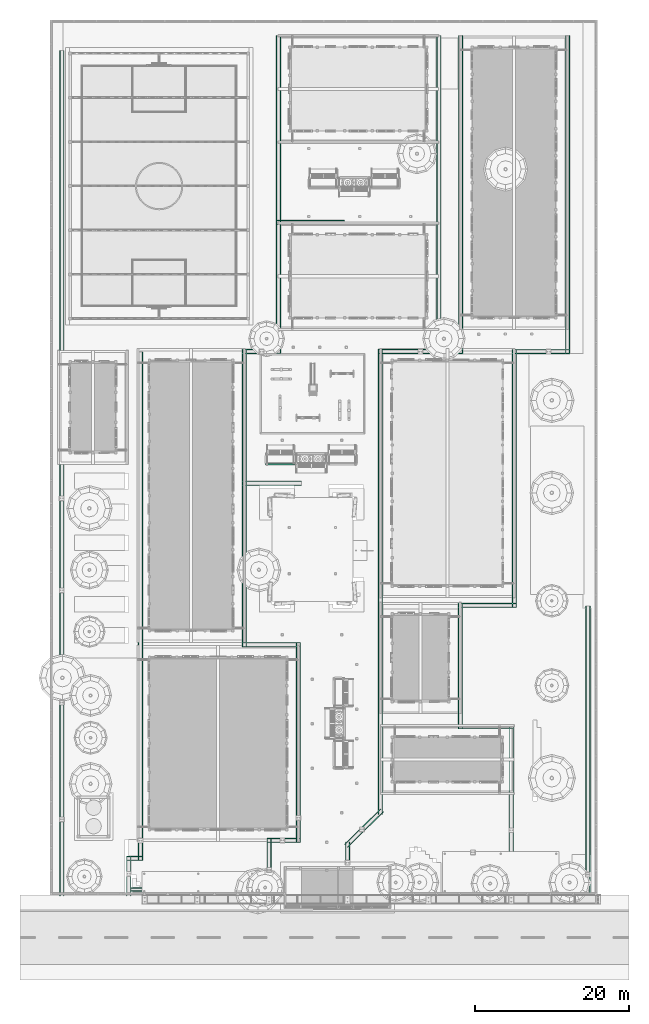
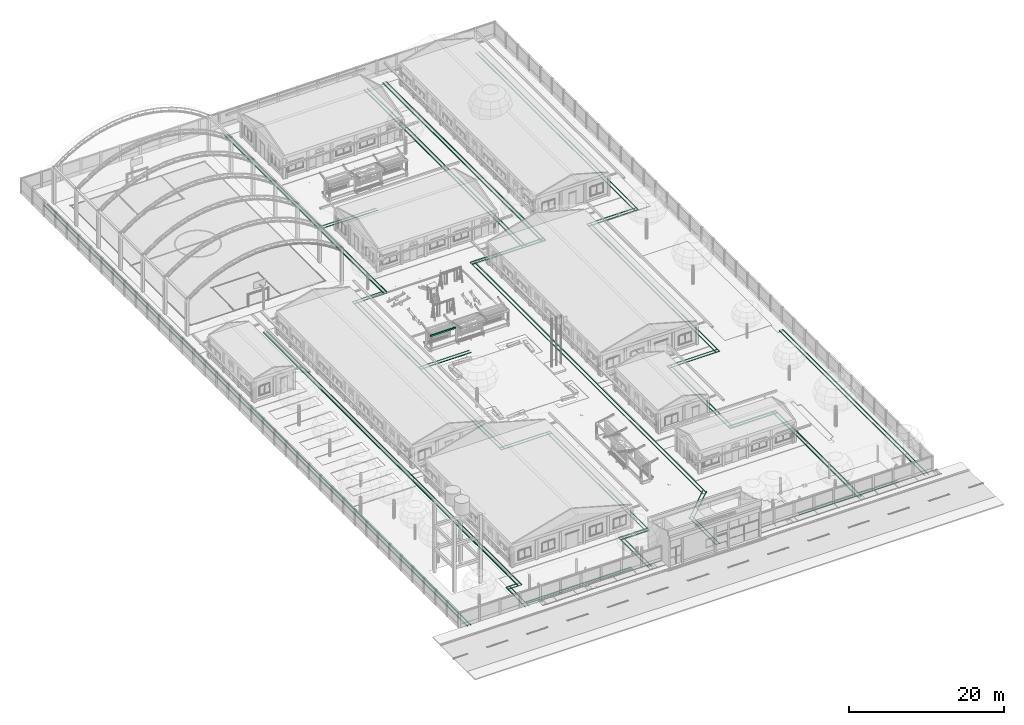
# One storey, part 105 of 177: 2 pipe segments.
"""IFC4 building model written with IfcOpenShell, lengths in metres."""

import ifcopenshell
import ifcopenshell.guid

model = None  # the IFC model being written
_history = None  # IfcOwnerHistory: only IFC2X3 demands one
_inside = {}  # id of a spatial element -> (the spatial element, [elements in it])
_under = {}  # id of a project, library or spatial element -> (it, [spatial elements below it])
_declared = {}  # id of a project -> (the project, [libraries it declares])
_typed = {}  # id of a type object -> (the type object, [elements of that type])
_made_of = {}  # id of a material, layer set ... -> (it, [elements and type objects made of it])


def new_model(schema):
    """Start an empty IFC model of exactly this schema.

    Asked for "IFC4X3", IfcOpenShell would pick the latest addendum, in which some entities
    have other attributes; the version numbers below select the first issue.
    IFC2X3 requires an IfcOwnerHistory on every rooted entity: one is made here for all.
    """
    global model, _history
    if schema == "IFC4X3":
        model = ifcopenshell.file(schema_version=(4, 3, 0, 0))
    else:
        model = ifcopenshell.file(schema=schema)
    _inside.clear()
    _under.clear()
    _declared.clear()
    _typed.clear()
    _made_of.clear()
    _history = None
    if model.schema == "IFC2X3":
        org = make("IfcOrganization", Name="unknown")
        user = make(
            "IfcPersonAndOrganization",
            ThePerson=make("IfcPerson", FamilyName="unknown"),
            TheOrganization=org,
        )
        app = make(
            "IfcApplication",
            ApplicationDeveloper=org,
            Version="unknown",
            ApplicationFullName="unknown",
            ApplicationIdentifier="unknown",
        )
        _history = make(
            "IfcOwnerHistory",
            OwningUser=user,
            OwningApplication=app,
            ChangeAction="ADDED",
            CreationDate=0,
        )
    return model


def make(cls, **values):
    """One entity of the class cls with the attributes given. An attribute that is None is left unset."""
    return model.create_entity(
        cls, **{name: value for name, value in values.items() if value is not None}
    )


def rooted(cls, **values):
    """An entity with a GlobalId (a new one), such as an element, a storey or a relation."""
    return make(cls, GlobalId=ifcopenshell.guid.new(), OwnerHistory=_history, **values)


def si_unit(unit_type, name, prefix=None):
    """IfcSIUnit, for example si_unit("LENGTHUNIT", "METRE", prefix="MILLI")."""
    return make("IfcSIUnit", UnitType=unit_type, Prefix=prefix, Name=name)


def assignment(units):
    """IfcUnitAssignment: the units of a project."""
    return None if units is None else make("IfcUnitAssignment", Units=units)


def point(xyz):
    """IfcCartesianPoint."""
    return None if xyz is None else make("IfcCartesianPoint", Coordinates=xyz)


def direction(xyz):
    """IfcDirection."""
    return None if xyz is None else make("IfcDirection", DirectionRatios=xyz)


def frame(location, z_axis=None, x_axis=None):
    """IfcAxis2Placement3D, a coordinate frame: its origin and axes. An axis left out is left unset."""
    return make(
        "IfcAxis2Placement3D",
        Location=point(location),
        Axis=direction(z_axis),
        RefDirection=direction(x_axis),
    )


def origin():
    """The frame at (0, 0, 0) with its axes left unset."""
    return frame((0.0, 0.0, 0.0))


def origin_with_axes():
    """The frame at (0, 0, 0) with the z axis (0, 0, 1) and the x axis (1, 0, 0) written out."""
    return frame((0.0, 0.0, 0.0), z_axis=(0.0, 0.0, 1.0), x_axis=(1.0, 0.0, 0.0))


def place(relative_to, where):
    """IfcLocalPlacement: puts the frame where relative to a parent placement (None: the world)."""
    return make(
        "IfcLocalPlacement", PlacementRelTo=relative_to, RelativePlacement=where
    )


def context(
    kind, dimensions, precision=None, world=None, true_north=None, identifier=None
):
    """IfcGeometricRepresentationContext, for example the 3D "Model" context."""
    return make(
        "IfcGeometricRepresentationContext",
        ContextIdentifier=identifier,
        ContextType=kind,
        CoordinateSpaceDimension=dimensions,
        Precision=precision,
        WorldCoordinateSystem=world,
        TrueNorth=true_north,
    )


def subcontext(parent, identifier, kind, view, scale=None):
    """IfcGeometricRepresentationSubContext, for example "Body" below "Model"."""
    return make(
        "IfcGeometricRepresentationSubContext",
        ContextIdentifier=identifier,
        ContextType=kind,
        ParentContext=parent,
        TargetScale=scale,
        TargetView=view,
    )


def project(units=None, contexts=None):
    """IfcProject with its units and contexts."""
    return rooted(
        "IfcProject",
        Name="project",
        RepresentationContexts=contexts,
        UnitsInContext=assignment(units),
    )


def spatial(cls, under=None, at=None, **own):
    """A site, building, storey or space (cls), placed at a placement, below another one or the project."""
    s = rooted(cls, ObjectPlacement=at, **own)
    if under is not None:
        _under.setdefault(under.id(), (under, []))[1].append(s)
    return s


def point_list(points):
    """IfcCartesianPointList2D or 3D."""
    cls = (
        "IfcCartesianPointList2D" if len(points[0]) == 2 else "IfcCartesianPointList3D"
    )
    return make(cls, CoordList=points)


def triangles(points, corners, closed=None, point_numbers=None):
    """IfcTriangulatedFaceSet: each triangle names its three corners, points numbered from 1."""
    return make(
        "IfcTriangulatedFaceSet",
        Coordinates=point_list(points),
        Closed=closed,
        CoordIndex=corners,
        PnIndex=point_numbers,
    )


def shape(context_of_items, identifier, shape_type, items):
    """IfcShapeRepresentation: the items that make up one representation, for example the "Body"."""
    return make(
        "IfcShapeRepresentation",
        ContextOfItems=context_of_items,
        RepresentationIdentifier=identifier,
        RepresentationType=shape_type,
        Items=items,
    )


def made_of(thing, what):
    """Note that an element or type object is made of a material, layer set ...; save() writes the relation."""
    if what is not None:
        _made_of.setdefault(what.id(), (what, []))[1].append(thing)
    return thing


def element(
    cls,
    number,
    at=None,
    inside=None,
    cuts=None,
    type_object=None,
    material=None,
    context=None,
    identifier="Body",
    shape_type=None,
    held_by="IfcProductDefinitionShape",
    body=None,
    shapes=None,
    **own,
):
    """One element of the class cls, such as IfcWall. Its Tag is "e" and its number.

    at: its placement. inside: the storey or other place that contains it. cuts: it is an
    opening in that element (IfcRelVoidsElement). A single representation is given by context,
    identifier, shape_type and body (its items); several are given by shapes. held_by: the class
    of the entity that holds the representations. save() writes the other relations.
    """
    e = rooted(cls, Tag="e%d" % number, ObjectPlacement=at, **own)
    if body is not None:
        shapes = [shape(context, identifier, shape_type, body)]
    if shapes is not None:
        e.Representation = make(held_by, Representations=shapes)
    if inside is not None:
        _inside.setdefault(inside.id(), (inside, []))[1].append(e)
    if cuts is not None:
        rooted(
            "IfcRelVoidsElement", RelatingBuildingElement=cuts, RelatedOpeningElement=e
        )
    if type_object is not None:
        _typed.setdefault(type_object.id(), (type_object, []))[1].append(e)
    return made_of(e, material)


def aggregate(whole, parts):
    """IfcRelAggregates: a whole, such as a stair, and the parts it consists of."""
    return rooted("IfcRelAggregates", RelatingObject=whole, RelatedObjects=parts)


def save(model, path):
    """Write the relations noted so far, then the file.

    IfcRelAggregates (storeys below a building ...), IfcRelContainedInSpatialStructure (elements
    in a storey), IfcRelDefinesByType, IfcRelAssociatesMaterial and IfcRelDeclares: one each for
    every whole, place, type object, material and project.
    """
    for whole, parts in _under.values():
        aggregate(whole, parts)
    for where, things in _inside.values():
        rooted(
            "IfcRelContainedInSpatialStructure",
            RelatedElements=things,
            RelatingStructure=where,
        )
    for kind, things in _typed.values():
        rooted("IfcRelDefinesByType", RelatedObjects=things, RelatingType=kind)
    for what, things in _made_of.values():
        rooted("IfcRelAssociatesMaterial", RelatedObjects=things, RelatingMaterial=what)
    for by, libraries in _declared.values():
        rooted("IfcRelDeclares", RelatingContext=by, RelatedDefinitions=libraries)
    model.write(path)


model = new_model("IFC4")

# Units and contexts
model_context = context("Model", 3, precision=1e-05, world=origin_with_axes())
body_context = subcontext(model_context, "Body", "Model", "MODEL_VIEW")
ifc_project = project(units=[si_unit("LENGTHUNIT", "METRE"), si_unit("AREAUNIT", "SQUARE_METRE"), si_unit("VOLUMEUNIT", "CUBIC_METRE"), si_unit("PLANEANGLEUNIT", "RADIAN")], contexts=[model_context])

# Site, building, storey
site_placement = place(None, origin_with_axes())
site = spatial("IfcSite", under=ifc_project, at=site_placement, Name="Predio Los Mangos - Morales, San Martín", CompositionType="ELEMENT")
building_placement = place(site_placement, origin())
building = spatial("IfcBuilding", under=site, at=building_placement, Name="Hogar de Refugio Temporal", CompositionType="ELEMENT")
storey_placement = place(building_placement, origin())
storey = spatial("IfcBuildingStorey", under=building, at=storey_placement, Name="NIVEL 1 (NPT +0.00)", CompositionType="ELEMENT", Elevation=0.0)

# Pipe segments
pipe_segment_1_placement = place(storey_placement, origin())
element("IfcPipeSegment", 1, at=pipe_segment_1_placement, inside=storey, Name="oc01_canaleta", ObjectType="Canaleta", PredefinedType="GUTTER", context=body_context, shape_type="Tessellation", body=[
    triangles([(32.695, 73.8, 2.49), (28.905, 73.8, 2.49), (28.905, 73.62, 2.49), (32.695, 73.62, 2.49), (32.695, 73.8, 2.71), (28.905, 73.8, 2.71), (28.905, 73.62, 2.71), (32.695, 73.62, 2.71)], [[1, 4, 3], [1, 3, 2], [5, 6, 7], [5, 7, 8], [1, 2, 6], [1, 6, 5], [2, 3, 7], [2, 7, 6], [3, 4, 8], [3, 8, 7], [4, 1, 5], [4, 5, 8]]),
])
pipe_segment_2_placement = place(storey_placement, origin())
element("IfcPipeSegment", 2, at=pipe_segment_2_placement, inside=storey, Name="cunetas_muros", ObjectType="Cuneta de concreto b=0.40", PredefinedType="GUTTER", context=body_context, shape_type="Tessellation", body=[
    triangles([(70.899, 55.35, -0.02), (70.899, 17.54, -0.02), (70.999, 17.54, -0.02), (70.999, 55.35, -0.02), (70.899, 55.35, 0.092), (70.899, 17.54, 0.092), (70.999, 17.54, 0.092), (70.999, 55.35, 0.092), (70.399, 55.35, -0.02), (70.399, 17.54, -0.02), (70.499, 17.54, -0.02), (70.499, 55.35, -0.02), (70.399, 55.35, 0.092), (70.399, 17.54, 0.092), (70.499, 17.54, 0.092), (70.499, 55.35, 0.092), (68.255, 129.32, -0.02), (68.255, 88.022, -0.02), (68.355, 88.022, -0.02), (68.355, 129.32, -0.02), (68.255, 129.32, 0.092), (68.255, 88.022, 0.092), (68.355, 88.022, 0.092), (68.355, 129.32, 0.092), (67.755, 129.32, -0.02), (67.755, 88.022, -0.02), (67.855, 88.022, -0.02), (67.855, 129.32, -0.02), (67.755, 129.32, 0.092), (67.755, 88.022, 0.092), (67.855, 88.022, 0.092), (67.855, 129.32, 0.092), (68.355, 88.122, -0.02), (60.848, 88.122, -0.02), (60.848, 88.022, -0.02), (68.355, 88.022, -0.02), (68.355, 88.122, 0.092), (60.848, 88.122, 0.092), (60.848, 88.022, 0.092), (68.355, 88.022, 0.092), (68.355, 88.622, -0.02), (60.848, 88.622, -0.02), (60.848, 88.522, -0.02), (68.355, 88.522, -0.02), (68.355, 88.622, 0.092), (60.848, 88.622, 0.092), (60.848, 88.522, 0.092), (68.355, 88.522, 0.092), (61.348, 88.622, -0.02), (61.348, 55.099, -0.02), (61.448, 55.099, -0.02), (61.448, 88.622, -0.02), (61.348, 88.622, 0.092), (61.348, 55.099, 0.092), (61.448, 55.099, 0.092), (61.448, 88.622, 0.092), (60.848, 88.622, -0.02), (60.848, 55.099, -0.02), (60.948, 55.099, -0.02), (60.948, 88.622, -0.02), (60.848, 88.622, 0.092), (60.848, 55.099, 0.092), (60.948, 55.099, 0.092), (60.948, 88.622, 0.092), (61.448, 55.199, -0.02), (53.838, 55.199, -0.02), (53.838, 55.099, -0.02), (61.448, 55.099, -0.02), (61.448, 55.199, 0.092), (53.838, 55.199, 0.092), (53.838, 55.099, 0.092), (61.448, 55.099, 0.092), (61.448, 55.699, -0.02), (53.838, 55.699, -0.02), (53.838, 55.599, -0.02), (61.448, 55.599, -0.02), (61.448, 55.699, 0.092), (53.838, 55.699, 0.092), (53.838, 55.599, 0.092), (61.448, 55.599, 0.092), (54.338, 55.699, -0.02), (54.338, 39.344, -0.02), (54.438, 39.344, -0.02), (54.438, 55.699, -0.02), (54.338, 55.699, 0.092), (54.338, 39.344, 0.092), (54.438, 39.344, 0.092), (54.438, 55.699, 0.092), (53.838, 55.699, -0.02), (53.838, 39.344, -0.02), (53.938, 39.344, -0.02), (53.938, 55.699, -0.02), (53.838, 55.699, 0.092), (53.838, 39.344, 0.092), (53.938, 39.344, 0.092), (53.938, 55.699, 0.092), (53.838, 39.844, -0.02), (61.037, 39.844, -0.02), (61.037, 39.944, -0.02), (53.838, 39.944, -0.02), (53.838, 39.844, 0.158), (61.037, 39.844, 0.158), (61.037, 39.944, 0.158), (53.838, 39.944, 0.158), (53.838, 39.344, -0.02), (61.037, 39.344, -0.02), (61.037, 39.444, -0.02), (53.838, 39.444, -0.02), (53.838, 39.344, 0.158), (61.037, 39.344, 0.158), (61.037, 39.444, 0.158), (53.838, 39.444, 0.158), (60.937, 39.944, -0.02), (60.937, 17.7, -0.02), (61.037, 17.7, -0.02), (61.037, 39.944, -0.02), (60.937, 39.944, 0.158), (60.937, 17.7, 0.158), (61.037, 17.7, 0.158), (61.037, 39.944, 0.158), (60.437, 39.944, -0.02), (60.437, 17.7, -0.02), (60.537, 17.7, -0.02), (60.537, 39.944, -0.02), (60.437, 39.944, 0.158), (60.437, 17.7, 0.158), (60.537, 17.7, 0.158), (60.537, 39.944, 0.158), (54.372, 129.32, -0.02), (54.372, 88.036, -0.02), (54.472, 88.036, -0.02), (54.472, 129.32, -0.02), (54.372, 129.32, 0.158), (54.372, 88.036, 0.158), (54.472, 88.036, 0.158), (54.472, 129.32, 0.158), (53.872, 129.32, -0.02), (53.872, 88.036, -0.02), (53.972, 88.036, -0.02), (53.972, 129.32, -0.02), (53.872, 129.32, 0.158), (53.872, 88.036, 0.158), (53.972, 88.036, 0.158), (53.972, 129.32, 0.158), (54.472, 88.136, -0.02), (51.1, 88.136, -0.02), (51.1, 88.036, -0.02), (54.472, 88.036, -0.02), (54.472, 88.136, 0.158), (51.1, 88.136, 0.158), (51.1, 88.036, 0.158), (54.472, 88.036, 0.158), (54.472, 88.636, -0.02), (51.1, 88.636, -0.02), (51.1, 88.536, -0.02), (54.472, 88.536, -0.02), (54.472, 88.636, 0.158), (51.1, 88.636, 0.158), (51.1, 88.536, 0.158), (54.472, 88.536, 0.158), (51.542, 129.32, -0.02), (51.542, 88.036, -0.02), (51.642, 88.036, -0.02), (51.642, 129.32, -0.02), (51.542, 129.32, 0.158), (51.542, 88.036, 0.158), (51.642, 88.036, 0.158), (51.642, 129.32, 0.158), (51.042, 129.32, -0.02), (51.042, 88.036, -0.02), (51.142, 88.036, -0.02), (51.142, 129.32, -0.02), (51.042, 129.32, 0.158), (51.042, 88.036, 0.158), (51.142, 88.036, 0.158), (51.142, 129.32, 0.158), (51.642, 88.136, -0.02), (43.455, 88.136, -0.02), (43.455, 88.036, -0.02), (51.642, 88.036, -0.02), (51.642, 88.136, 0.158), (43.455, 88.136, 0.158), (43.455, 88.036, 0.158), (51.642, 88.036, 0.158), (51.642, 88.636, -0.02), (43.455, 88.636, -0.02), (43.455, 88.536, -0.02), (51.642, 88.536, -0.02), (51.642, 88.636, 0.158), (43.455, 88.636, 0.158), (43.455, 88.536, 0.158), (51.642, 88.536, 0.158), (43.955, 88.636, -0.02), (43.955, 28.3, -0.02), (44.055, 28.3, -0.02), (44.055, 88.636, -0.02), (43.955, 88.636, 0.092), (43.955, 28.3, 0.092), (44.055, 28.3, 0.092), (44.055, 88.636, 0.092), (43.455, 88.636, -0.02), (43.455, 28.3, -0.02), (43.555, 28.3, -0.02), (43.555, 88.636, -0.02), (43.455, 88.636, 0.092), (43.455, 28.3, 0.092), (43.555, 28.3, 0.092), (43.555, 88.636, 0.092), (44.1089, 28.669, -0.02), (39.4416, 24.0468, -0.02), (39.5119, 23.9757, -0.02), (44.1793, 28.5979, -0.02), (44.1089, 28.669, 0.092), (39.4416, 24.0468, 0.092), (39.5119, 23.9757, 0.092), (44.1793, 28.5979, 0.092), (43.7571, 29.0243, -0.02), (39.0897, 24.4021, -0.02), (39.1601, 24.331, -0.02), (43.8274, 28.9532, -0.02), (43.7571, 29.0243, 0.092), (39.0897, 24.4021, 0.092), (39.1601, 24.331, 0.092), (43.8274, 28.9532, 0.092), (39.714, 24.7, -0.02), (39.714, 17.54, -0.02), (39.814, 17.54, -0.02), (39.814, 24.7, -0.02), (39.714, 24.7, 0.092), (39.714, 17.54, 0.092), (39.814, 17.54, 0.092), (39.814, 24.7, 0.092), (39.214, 24.7, -0.02), (39.214, 17.54, -0.02), (39.314, 17.54, -0.02), (39.314, 24.7, -0.02), (39.214, 24.7, 0.092), (39.214, 17.54, 0.092), (39.314, 17.54, 0.092), (39.314, 24.7, 0.092), (30.734, 129.32, -0.02), (30.734, 88.036, -0.02), (30.834, 88.036, -0.02), (30.834, 129.32, -0.02), (30.734, 129.32, 0.158), (30.734, 88.036, 0.158), (30.834, 88.036, 0.158), (30.834, 129.32, 0.158), (30.234, 129.32, -0.02), (30.234, 88.036, -0.02), (30.334, 88.036, -0.02), (30.334, 129.32, -0.02), (30.234, 129.32, 0.158), (30.234, 88.036, 0.158), (30.334, 88.036, 0.158), (30.334, 129.32, 0.158), (30.834, 88.136, -0.02), (25.809, 88.136, -0.02), (25.809, 88.036, -0.02), (30.834, 88.036, -0.02), (30.834, 88.136, 0.092), (25.809, 88.136, 0.092), (25.809, 88.036, 0.092), (30.834, 88.036, 0.092), (30.834, 88.636, -0.02), (25.809, 88.636, -0.02), (25.809, 88.536, -0.02), (30.834, 88.536, -0.02), (30.834, 88.636, 0.092), (25.809, 88.636, 0.092), (25.809, 88.536, 0.092), (30.834, 88.536, 0.092), (26.309, 88.636, -0.02), (26.309, 49.993, -0.02), (26.409, 49.993, -0.02), (26.409, 88.636, -0.02), (26.309, 88.636, 0.092), (26.309, 49.993, 0.092), (26.409, 49.993, 0.092), (26.409, 88.636, 0.092), (25.809, 88.636, -0.02), (25.809, 49.993, -0.02), (25.909, 49.993, -0.02), (25.909, 88.636, -0.02), (25.809, 88.636, 0.092), (25.809, 49.993, 0.092), (25.909, 49.993, 0.092), (25.909, 88.636, 0.092), (25.809, 50.493, -0.02), (33.42, 50.493, -0.02), (33.42, 50.593, -0.02), (25.809, 50.593, -0.02), (25.809, 50.493, 0.092), (33.42, 50.493, 0.092), (33.42, 50.593, 0.092), (25.809, 50.593, 0.092), (25.809, 49.993, -0.02), (33.42, 49.993, -0.02), (33.42, 50.093, -0.02), (25.809, 50.093, -0.02), (25.809, 49.993, 0.092), (33.42, 49.993, 0.092), (33.42, 50.093, 0.092), (25.809, 50.093, 0.092), (33.32, 50.593, -0.02), (33.32, 24.617, -0.02), (33.42, 24.617, -0.02), (33.42, 50.593, -0.02), (33.32, 50.593, 0.092), (33.32, 24.617, 0.092), (33.42, 24.617, 0.092), (33.42, 50.593, 0.092), (32.82, 50.593, -0.02), (32.82, 24.617, -0.02), (32.92, 24.617, -0.02), (32.92, 50.593, -0.02), (32.82, 50.593, 0.092), (32.82, 24.617, 0.092), (32.92, 24.617, 0.092), (32.92, 50.593, 0.092), (33.42, 24.717, -0.02), (29.029, 24.717, -0.02), (29.029, 24.617, -0.02), (33.42, 24.617, -0.02), (33.42, 24.717, 0.158), (29.029, 24.717, 0.158), (29.029, 24.617, 0.158), (33.42, 24.617, 0.158), (33.42, 25.217, -0.02), (29.029, 25.217, -0.02), (29.029, 25.117, -0.02), (33.42, 25.117, -0.02), (33.42, 25.217, 0.158), (29.029, 25.217, 0.158), (29.029, 25.117, 0.158), (33.42, 25.117, 0.158), (29.529, 25.217, -0.02), (29.529, 17.54, -0.02), (29.629, 17.54, -0.02), (29.629, 25.217, -0.02), (29.529, 25.217, 0.092), (29.529, 17.54, 0.092), (29.629, 17.54, 0.092), (29.629, 25.217, 0.092), (29.029, 25.217, -0.02), (29.029, 17.54, -0.02), (29.129, 17.54, -0.02), (29.129, 25.217, -0.02), (29.029, 25.217, 0.092), (29.029, 17.54, 0.092), (29.129, 17.54, 0.092), (29.129, 25.217, 0.092), (39.1, 104.889, -0.02), (30.3, 104.889, -0.02), (30.3, 104.789, -0.02), (39.1, 104.789, -0.02), (39.1, 104.889, 0.092), (30.3, 104.889, 0.092), (30.3, 104.789, 0.092), (39.1, 104.789, 0.092), (39.1, 105.389, -0.02), (30.3, 105.389, -0.02), (30.3, 105.289, -0.02), (39.1, 105.289, -0.02), (39.1, 105.389, 0.092), (30.3, 105.389, 0.092), (30.3, 105.289, 0.092), (39.1, 105.289, 0.092), (33.5, 71.046, -0.02), (25.9, 71.046, -0.02), (25.9, 70.946, -0.02), (33.5, 70.946, -0.02), (33.5, 71.046, 0.092), (25.9, 71.046, 0.092), (25.9, 70.946, 0.092), (33.5, 70.946, 0.092), (33.5, 71.546, -0.02), (25.9, 71.546, -0.02), (25.9, 71.446, -0.02), (33.5, 71.446, -0.02), (33.5, 71.546, 0.092), (25.9, 71.546, 0.092), (25.9, 71.446, 0.092), (33.5, 71.446, 0.092), (12.839, 88.3, -0.02), (12.839, 22.28, -0.02), (12.939, 22.28, -0.02), (12.939, 88.3, -0.02), (12.839, 88.3, 0.158), (12.839, 22.28, 0.158), (12.939, 22.28, 0.158), (12.939, 88.3, 0.158), (12.339, 88.3, -0.02), (12.339, 22.28, -0.02), (12.439, 22.28, -0.02), (12.439, 88.3, -0.02), (12.339, 88.3, 0.158), (12.339, 22.28, 0.158), (12.439, 22.28, 0.158), (12.439, 88.3, 0.158), (12.939, 22.38, -0.02), (10.812, 22.38, -0.02), (10.812, 22.28, -0.02), (12.939, 22.28, -0.02), (12.939, 22.38, 0.092), (10.812, 22.38, 0.092), (10.812, 22.28, 0.092), (12.939, 22.28, 0.092), (12.939, 22.88, -0.02), (10.812, 22.88, -0.02), (10.812, 22.78, -0.02), (12.939, 22.78, -0.02), (12.939, 22.88, 0.092), (10.812, 22.88, 0.092), (10.812, 22.78, 0.092), (12.939, 22.78, 0.092), (11.312, 22.88, -0.02), (11.312, 17.7, -0.02), (11.412, 17.7, -0.02), (11.412, 22.88, -0.02), (11.312, 22.88, 0.092), (11.312, 17.7, 0.092), (11.412, 17.7, 0.092), (11.412, 22.88, 0.092), (10.812, 22.88, -0.02), (10.812, 17.7, -0.02), (10.912, 17.7, -0.02), (10.912, 22.88, -0.02), (10.812, 22.88, 0.092), (10.812, 17.7, 0.092), (10.912, 17.7, 0.092), (10.912, 22.88, 0.092), (2.63, 127.4, -0.02), (2.63, 17.7, -0.02), (2.73, 17.7, -0.02), (2.73, 127.4, -0.02), (2.63, 127.4, 0.158), (2.63, 17.7, 0.158), (2.73, 17.7, 0.158), (2.73, 127.4, 0.158), (2.13, 127.4, -0.02), (2.13, 17.7, -0.02), (2.23, 17.7, -0.02), (2.23, 127.4, -0.02), (2.13, 127.4, 0.158), (2.13, 17.7, 0.158), (2.23, 17.7, 0.158), (2.23, 127.4, 0.158), (11.413, 18.701, -0.02), (27.239, 18.701, -0.02), (27.239, 18.801, -0.02), (11.413, 18.801, -0.02), (11.413, 18.701, 0.092), (27.239, 18.701, 0.092), (27.239, 18.801, 0.092), (11.413, 18.801, 0.092), (11.413, 18.301, -0.02), (27.239, 18.301, -0.02), (27.239, 18.401, -0.02), (11.413, 18.401, -0.02), (11.413, 18.301, 0.092), (27.239, 18.301, 0.092), (27.239, 18.401, 0.092), (11.413, 18.401, 0.092), (51.903, 18.401, -0.02), (60.435, 18.401, -0.02), (60.435, 18.501, -0.02), (51.903, 18.501, -0.02), (51.903, 18.401, 0.092), (60.435, 18.401, 0.092), (60.435, 18.501, 0.092), (51.903, 18.501, 0.092), (51.903, 18.001, -0.02), (60.435, 18.001, -0.02), (60.435, 18.101, -0.02), (51.903, 18.101, -0.02), (51.903, 18.001, 0.092), (60.435, 18.001, 0.092), (60.435, 18.101, 0.092), (51.903, 18.101, 0.092), (61.035, 18.401, -0.02), (66.759, 18.401, -0.02), (66.759, 18.501, -0.02), (61.035, 18.501, -0.02), (61.035, 18.401, 0.092), (66.759, 18.401, 0.092), (66.759, 18.501, 0.092), (61.035, 18.501, 0.092), (61.035, 18.001, -0.02), (66.759, 18.001, -0.02), (66.759, 18.101, -0.02), (61.035, 18.101, -0.02), (61.035, 18.001, 0.092), (66.759, 18.001, 0.092), (66.759, 18.101, 0.092), (61.035, 18.101, 0.092)], [[1, 4, 3], [1, 3, 2], [5, 6, 7], [5, 7, 8], [1, 2, 6], [1, 6, 5], [2, 3, 7], [2, 7, 6], [3, 4, 8], [3, 8, 7], [4, 1, 5], [4, 5, 8], [9, 12, 11], [9, 11, 10], [13, 14, 15], [13, 15, 16], [9, 10, 14], [9, 14, 13], [10, 11, 15], [10, 15, 14], [11, 12, 16], [11, 16, 15], [12, 9, 13], [12, 13, 16], [17, 20, 19], [17, 19, 18], [21, 22, 23], [21, 23, 24], [17, 18, 22], [17, 22, 21], [18, 19, 23], [18, 23, 22], [19, 20, 24], [19, 24, 23], [20, 17, 21], [20, 21, 24], [25, 28, 27], [25, 27, 26], [29, 30, 31], [29, 31, 32], [25, 26, 30], [25, 30, 29], [26, 27, 31], [26, 31, 30], [27, 28, 32], [27, 32, 31], [28, 25, 29], [28, 29, 32], [33, 36, 35], [33, 35, 34], [37, 38, 39], [37, 39, 40], [33, 34, 38], [33, 38, 37], [34, 35, 39], [34, 39, 38], [35, 36, 40], [35, 40, 39], [36, 33, 37], [36, 37, 40], [41, 44, 43], [41, 43, 42], [45, 46, 47], [45, 47, 48], [41, 42, 46], [41, 46, 45], [42, 43, 47], [42, 47, 46], [43, 44, 48], [43, 48, 47], [44, 41, 45], [44, 45, 48], [49, 52, 51], [49, 51, 50], [53, 54, 55], [53, 55, 56], [49, 50, 54], [49, 54, 53], [50, 51, 55], [50, 55, 54], [51, 52, 56], [51, 56, 55], [52, 49, 53], [52, 53, 56], [57, 60, 59], [57, 59, 58], [61, 62, 63], [61, 63, 64], [57, 58, 62], [57, 62, 61], [58, 59, 63], [58, 63, 62], [59, 60, 64], [59, 64, 63], [60, 57, 61], [60, 61, 64], [65, 68, 67], [65, 67, 66], [69, 70, 71], [69, 71, 72], [65, 66, 70], [65, 70, 69], [66, 67, 71], [66, 71, 70], [67, 68, 72], [67, 72, 71], [68, 65, 69], [68, 69, 72], [73, 76, 75], [73, 75, 74], [77, 78, 79], [77, 79, 80], [73, 74, 78], [73, 78, 77], [74, 75, 79], [74, 79, 78], [75, 76, 80], [75, 80, 79], [76, 73, 77], [76, 77, 80], [81, 84, 83], [81, 83, 82], [85, 86, 87], [85, 87, 88], [81, 82, 86], [81, 86, 85], [82, 83, 87], [82, 87, 86], [83, 84, 88], [83, 88, 87], [84, 81, 85], [84, 85, 88], [89, 92, 91], [89, 91, 90], [93, 94, 95], [93, 95, 96], [89, 90, 94], [89, 94, 93], [90, 91, 95], [90, 95, 94], [91, 92, 96], [91, 96, 95], [92, 89, 93], [92, 93, 96], [97, 100, 99], [97, 99, 98], [101, 102, 103], [101, 103, 104], [97, 98, 102], [97, 102, 101], [98, 99, 103], [98, 103, 102], [99, 100, 104], [99, 104, 103], [100, 97, 101], [100, 101, 104], [105, 108, 107], [105, 107, 106], [109, 110, 111], [109, 111, 112], [105, 106, 110], [105, 110, 109], [106, 107, 111], [106, 111, 110], [107, 108, 112], [107, 112, 111], [108, 105, 109], [108, 109, 112], [113, 116, 115], [113, 115, 114], [117, 118, 119], [117, 119, 120], [113, 114, 118], [113, 118, 117], [114, 115, 119], [114, 119, 118], [115, 116, 120], [115, 120, 119], [116, 113, 117], [116, 117, 120], [121, 124, 123], [121, 123, 122], [125, 126, 127], [125, 127, 128], [121, 122, 126], [121, 126, 125], [122, 123, 127], [122, 127, 126], [123, 124, 128], [123, 128, 127], [124, 121, 125], [124, 125, 128], [129, 132, 131], [129, 131, 130], [133, 134, 135], [133, 135, 136], [129, 130, 134], [129, 134, 133], [130, 131, 135], [130, 135, 134], [131, 132, 136], [131, 136, 135], [132, 129, 133], [132, 133, 136], [137, 140, 139], [137, 139, 138], [141, 142, 143], [141, 143, 144], [137, 138, 142], [137, 142, 141], [138, 139, 143], [138, 143, 142], [139, 140, 144], [139, 144, 143], [140, 137, 141], [140, 141, 144], [145, 148, 147], [145, 147, 146], [149, 150, 151], [149, 151, 152], [145, 146, 150], [145, 150, 149], [146, 147, 151], [146, 151, 150], [147, 148, 152], [147, 152, 151], [148, 145, 149], [148, 149, 152], [153, 156, 155], [153, 155, 154], [157, 158, 159], [157, 159, 160], [153, 154, 158], [153, 158, 157], [154, 155, 159], [154, 159, 158], [155, 156, 160], [155, 160, 159], [156, 153, 157], [156, 157, 160], [161, 164, 163], [161, 163, 162], [165, 166, 167], [165, 167, 168], [161, 162, 166], [161, 166, 165], [162, 163, 167], [162, 167, 166], [163, 164, 168], [163, 168, 167], [164, 161, 165], [164, 165, 168], [169, 172, 171], [169, 171, 170], [173, 174, 175], [173, 175, 176], [169, 170, 174], [169, 174, 173], [170, 171, 175], [170, 175, 174], [171, 172, 176], [171, 176, 175], [172, 169, 173], [172, 173, 176], [177, 180, 179], [177, 179, 178], [181, 182, 183], [181, 183, 184], [177, 178, 182], [177, 182, 181], [178, 179, 183], [178, 183, 182], [179, 180, 184], [179, 184, 183], [180, 177, 181], [180, 181, 184], [185, 188, 187], [185, 187, 186], [189, 190, 191], [189, 191, 192], [185, 186, 190], [185, 190, 189], [186, 187, 191], [186, 191, 190], [187, 188, 192], [187, 192, 191], [188, 185, 189], [188, 189, 192], [193, 196, 195], [193, 195, 194], [197, 198, 199], [197, 199, 200], [193, 194, 198], [193, 198, 197], [194, 195, 199], [194, 199, 198], [195, 196, 200], [195, 200, 199], [196, 193, 197], [196, 197, 200], [201, 204, 203], [201, 203, 202], [205, 206, 207], [205, 207, 208], [201, 202, 206], [201, 206, 205], [202, 203, 207], [202, 207, 206], [203, 204, 208], [203, 208, 207], [204, 201, 205], [204, 205, 208], [209, 212, 211], [209, 211, 210], [213, 214, 215], [213, 215, 216], [209, 210, 214], [209, 214, 213], [210, 211, 215], [210, 215, 214], [211, 212, 216], [211, 216, 215], [212, 209, 213], [212, 213, 216], [217, 220, 219], [217, 219, 218], [221, 222, 223], [221, 223, 224], [217, 218, 222], [217, 222, 221], [218, 219, 223], [218, 223, 222], [219, 220, 224], [219, 224, 223], [220, 217, 221], [220, 221, 224], [225, 228, 227], [225, 227, 226], [229, 230, 231], [229, 231, 232], [225, 226, 230], [225, 230, 229], [226, 227, 231], [226, 231, 230], [227, 228, 232], [227, 232, 231], [228, 225, 229], [228, 229, 232], [233, 236, 235], [233, 235, 234], [237, 238, 239], [237, 239, 240], [233, 234, 238], [233, 238, 237], [234, 235, 239], [234, 239, 238], [235, 236, 240], [235, 240, 239], [236, 233, 237], [236, 237, 240], [241, 244, 243], [241, 243, 242], [245, 246, 247], [245, 247, 248], [241, 242, 246], [241, 246, 245], [242, 243, 247], [242, 247, 246], [243, 244, 248], [243, 248, 247], [244, 241, 245], [244, 245, 248], [249, 252, 251], [249, 251, 250], [253, 254, 255], [253, 255, 256], [249, 250, 254], [249, 254, 253], [250, 251, 255], [250, 255, 254], [251, 252, 256], [251, 256, 255], [252, 249, 253], [252, 253, 256], [257, 260, 259], [257, 259, 258], [261, 262, 263], [261, 263, 264], [257, 258, 262], [257, 262, 261], [258, 259, 263], [258, 263, 262], [259, 260, 264], [259, 264, 263], [260, 257, 261], [260, 261, 264], [265, 268, 267], [265, 267, 266], [269, 270, 271], [269, 271, 272], [265, 266, 270], [265, 270, 269], [266, 267, 271], [266, 271, 270], [267, 268, 272], [267, 272, 271], [268, 265, 269], [268, 269, 272], [273, 276, 275], [273, 275, 274], [277, 278, 279], [277, 279, 280], [273, 274, 278], [273, 278, 277], [274, 275, 279], [274, 279, 278], [275, 276, 280], [275, 280, 279], [276, 273, 277], [276, 277, 280], [281, 284, 283], [281, 283, 282], [285, 286, 287], [285, 287, 288], [281, 282, 286], [281, 286, 285], [282, 283, 287], [282, 287, 286], [283, 284, 288], [283, 288, 287], [284, 281, 285], [284, 285, 288], [289, 292, 291], [289, 291, 290], [293, 294, 295], [293, 295, 296], [289, 290, 294], [289, 294, 293], [290, 291, 295], [290, 295, 294], [291, 292, 296], [291, 296, 295], [292, 289, 293], [292, 293, 296], [297, 300, 299], [297, 299, 298], [301, 302, 303], [301, 303, 304], [297, 298, 302], [297, 302, 301], [298, 299, 303], [298, 303, 302], [299, 300, 304], [299, 304, 303], [300, 297, 301], [300, 301, 304], [305, 308, 307], [305, 307, 306], [309, 310, 311], [309, 311, 312], [305, 306, 310], [305, 310, 309], [306, 307, 311], [306, 311, 310], [307, 308, 312], [307, 312, 311], [308, 305, 309], [308, 309, 312], [313, 316, 315], [313, 315, 314], [317, 318, 319], [317, 319, 320], [313, 314, 318], [313, 318, 317], [314, 315, 319], [314, 319, 318], [315, 316, 320], [315, 320, 319], [316, 313, 317], [316, 317, 320], [321, 324, 323], [321, 323, 322], [325, 326, 327], [325, 327, 328], [321, 322, 326], [321, 326, 325], [322, 323, 327], [322, 327, 326], [323, 324, 328], [323, 328, 327], [324, 321, 325], [324, 325, 328], [329, 332, 331], [329, 331, 330], [333, 334, 335], [333, 335, 336], [329, 330, 334], [329, 334, 333], [330, 331, 335], [330, 335, 334], [331, 332, 336], [331, 336, 335], [332, 329, 333], [332, 333, 336], [337, 340, 339], [337, 339, 338], [341, 342, 343], [341, 343, 344], [337, 338, 342], [337, 342, 341], [338, 339, 343], [338, 343, 342], [339, 340, 344], [339, 344, 343], [340, 337, 341], [340, 341, 344], [345, 348, 347], [345, 347, 346], [349, 350, 351], [349, 351, 352], [345, 346, 350], [345, 350, 349], [346, 347, 351], [346, 351, 350], [347, 348, 352], [347, 352, 351], [348, 345, 349], [348, 349, 352], [353, 356, 355], [353, 355, 354], [357, 358, 359], [357, 359, 360], [353, 354, 358], [353, 358, 357], [354, 355, 359], [354, 359, 358], [355, 356, 360], [355, 360, 359], [356, 353, 357], [356, 357, 360], [361, 364, 363], [361, 363, 362], [365, 366, 367], [365, 367, 368], [361, 362, 366], [361, 366, 365], [362, 363, 367], [362, 367, 366], [363, 364, 368], [363, 368, 367], [364, 361, 365], [364, 365, 368], [369, 372, 371], [369, 371, 370], [373, 374, 375], [373, 375, 376], [369, 370, 374], [369, 374, 373], [370, 371, 375], [370, 375, 374], [371, 372, 376], [371, 376, 375], [372, 369, 373], [372, 373, 376], [377, 380, 379], [377, 379, 378], [381, 382, 383], [381, 383, 384], [377, 378, 382], [377, 382, 381], [378, 379, 383], [378, 383, 382], [379, 380, 384], [379, 384, 383], [380, 377, 381], [380, 381, 384], [385, 388, 387], [385, 387, 386], [389, 390, 391], [389, 391, 392], [385, 386, 390], [385, 390, 389], [386, 387, 391], [386, 391, 390], [387, 388, 392], [387, 392, 391], [388, 385, 389], [388, 389, 392], [393, 396, 395], [393, 395, 394], [397, 398, 399], [397, 399, 400], [393, 394, 398], [393, 398, 397], [394, 395, 399], [394, 399, 398], [395, 396, 400], [395, 400, 399], [396, 393, 397], [396, 397, 400], [401, 404, 403], [401, 403, 402], [405, 406, 407], [405, 407, 408], [401, 402, 406], [401, 406, 405], [402, 403, 407], [402, 407, 406], [403, 404, 408], [403, 408, 407], [404, 401, 405], [404, 405, 408], [409, 412, 411], [409, 411, 410], [413, 414, 415], [413, 415, 416], [409, 410, 414], [409, 414, 413], [410, 411, 415], [410, 415, 414], [411, 412, 416], [411, 416, 415], [412, 409, 413], [412, 413, 416], [417, 420, 419], [417, 419, 418], [421, 422, 423], [421, 423, 424], [417, 418, 422], [417, 422, 421], [418, 419, 423], [418, 423, 422], [419, 420, 424], [419, 424, 423], [420, 417, 421], [420, 421, 424], [425, 428, 427], [425, 427, 426], [429, 430, 431], [429, 431, 432], [425, 426, 430], [425, 430, 429], [426, 427, 431], [426, 431, 430], [427, 428, 432], [427, 432, 431], [428, 425, 429], [428, 429, 432], [433, 436, 435], [433, 435, 434], [437, 438, 439], [437, 439, 440], [433, 434, 438], [433, 438, 437], [434, 435, 439], [434, 439, 438], [435, 436, 440], [435, 440, 439], [436, 433, 437], [436, 437, 440], [441, 444, 443], [441, 443, 442], [445, 446, 447], [445, 447, 448], [441, 442, 446], [441, 446, 445], [442, 443, 447], [442, 447, 446], [443, 444, 448], [443, 448, 447], [444, 441, 445], [444, 445, 448], [449, 452, 451], [449, 451, 450], [453, 454, 455], [453, 455, 456], [449, 450, 454], [449, 454, 453], [450, 451, 455], [450, 455, 454], [451, 452, 456], [451, 456, 455], [452, 449, 453], [452, 453, 456], [457, 460, 459], [457, 459, 458], [461, 462, 463], [461, 463, 464], [457, 458, 462], [457, 462, 461], [458, 459, 463], [458, 463, 462], [459, 460, 464], [459, 464, 463], [460, 457, 461], [460, 461, 464], [465, 468, 467], [465, 467, 466], [469, 470, 471], [469, 471, 472], [465, 466, 470], [465, 470, 469], [466, 467, 471], [466, 471, 470], [467, 468, 472], [467, 472, 471], [468, 465, 469], [468, 469, 472], [473, 476, 475], [473, 475, 474], [477, 478, 479], [477, 479, 480], [473, 474, 478], [473, 478, 477], [474, 475, 479], [474, 479, 478], [475, 476, 480], [475, 480, 479], [476, 473, 477], [476, 477, 480], [481, 484, 483], [481, 483, 482], [485, 486, 487], [485, 487, 488], [481, 482, 486], [481, 486, 485], [482, 483, 487], [482, 487, 486], [483, 484, 488], [483, 488, 487], [484, 481, 485], [484, 485, 488], [489, 492, 491], [489, 491, 490], [493, 494, 495], [493, 495, 496], [489, 490, 494], [489, 494, 493], [490, 491, 495], [490, 495, 494], [491, 492, 496], [491, 496, 495], [492, 489, 493], [492, 493, 496]]),
])

save(model, "model.ifc")
